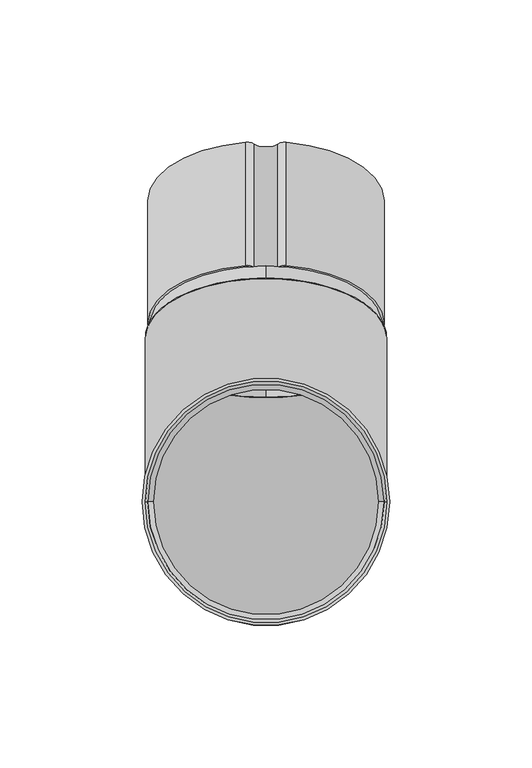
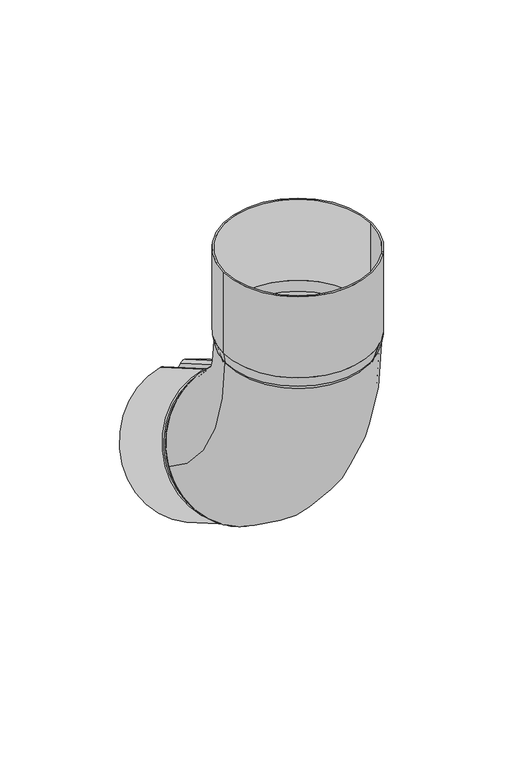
"""IFC4 building model written with IfcOpenShell, lengths in millimetres: proxy geometry, GROVIK_Downpipe_Elbow : N85_60°_Down."""

from ifc_helpers import new_model, si_unit, point, frame, frame_2d, origin, origin_with_axes, origin_2d, place, context, project, spatial, polyline, circle_curve, ellipse_curve, trimmed, segment, composite_curve, outline, extrude, source, transform, mapped, element, save
from ifc_brep_helpers import plane_surface, revolved_surface, advanced_brep


def generic_models_72abba32(model_context):
    return source(origin(), model_context, "Body", "SolidModel", [
        extrude(outline(composite_curve([segment(trimmed(circle_curve(origin_2d(), 41.5), [point((-7.1689075, -40.8761149))], [point((-7.1689075, 40.8761148))], False, "CARTESIAN"), True, "CONTINUOUS"), segment(trimmed(circle_curve(frame_2d((-6.6504209, 37.8351931)), 3.0848069), [point((-7.1689075, 40.8761148))], [point((-4.2037022, 39.7139163))], False, "CARTESIAN"), True, "CONTINUOUS"), segment(trimmed(circle_curve(frame_2d((0.0, 42.9417465)), 5.3), [point((-4.2037022, 39.7139163))], [point((4.2058428, 39.716706))], True, "CARTESIAN"), True, "CONTINUOUS"), segment(trimmed(circle_curve(frame_2d((6.6465812, 37.8451476)), 3.0757007), [point((4.2058428, 39.716706))], [point((7.2, 40.8706496))], False, "CARTESIAN"), True, "CONTINUOUS"), segment(trimmed(circle_curve(origin_2d(), 41.5), [point((7.2, 40.8706496))], [point((7.2, -40.8706497))], False, "CARTESIAN"), True, "CONTINUOUS"), segment(trimmed(circle_curve(frame_2d((6.6465812, -37.8451476)), 3.0757007), [point((7.2, -40.8706497))], [point((4.2058428, -39.716706))], False, "CARTESIAN"), True, "CONTINUOUS"), segment(trimmed(circle_curve(frame_2d((0.0, -42.9417466)), 5.3), [point((4.2058428, -39.716706))], [point((-4.2037022, -39.7139163))], True, "CARTESIAN"), True, "CONTINUOUS"), segment(trimmed(circle_curve(frame_2d((-6.6504209, -37.8351931)), 3.0848069), [point((-4.2037022, -39.7139163))], [point((-7.1689075, -40.8761149))], False, "CARTESIAN"), True, "CONTINUOUS")], self_intersect=False), holes=[composite_curve([segment(trimmed(circle_curve(frame_2d((-6.6504209, -37.8351931)), 2.0848069), [point((-6.9987091, -39.8907016))], [point((-4.9968535, -39.1048917))], True, "CARTESIAN"), True, "CONTINUOUS"), segment(trimmed(circle_curve(frame_2d((0.0, -42.9417466)), 6.3), [point((-4.9968535, -39.1048917))], [point((4.999398, -39.1082078))], False, "CARTESIAN"), True, "CONTINUOUS"), segment(trimmed(circle_curve(frame_2d((6.6465812, -37.8451476)), 2.0757007), [point((4.999398, -39.1082078))], [point((7.0229886, -39.8864342))], True, "CARTESIAN"), True, "CONTINUOUS"), segment(trimmed(circle_curve(origin_2d(), 40.5), [point((7.0229886, -39.8864342))], [point((6.9882501, 39.8925351))], True, "CARTESIAN"), True, "CONTINUOUS"), segment(trimmed(circle_curve(frame_2d((6.6465812, 37.8451476)), 2.0757007), [point((6.9882501, 39.8925351))], [point((4.999398, 39.1082078))], True, "CARTESIAN"), True, "CONTINUOUS"), segment(trimmed(circle_curve(frame_2d((0.0, 42.9417465)), 6.3), [point((4.999398, 39.1082078))], [point((-4.9968535, 39.1048917))], False, "CARTESIAN"), True, "CONTINUOUS"), segment(trimmed(circle_curve(frame_2d((-6.6504209, 37.8351931)), 2.0848069), [point((-4.9968535, 39.1048917))], [point((-6.9987091, 39.8907015))], True, "CARTESIAN"), True, "CONTINUOUS"), segment(trimmed(circle_curve(origin_2d(), 40.5), [point((-6.9987091, 39.8907015))], [point((-6.9987091, -39.8907016))], True, "CARTESIAN"), True, "CONTINUOUS")], self_intersect=False)]), frame((0.0, 105.9974226, -127.5929214), z_axis=(0.0, -0.8660254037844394, 0.4999999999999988), x_axis=(1.0, 0.0, 0.0)), (0.0, 0.0, 1.0), 50.0),
        extrude(outline(composite_curve([segment(trimmed(circle_curve(origin_2d(), 43.5), [point((-43.5, 0.0))], [point((43.5, 0.0))], False, "CARTESIAN"), True, "CONTINUOUS"), segment(trimmed(circle_curve(origin_2d(), 43.5), [point((43.5, 0.0))], [point((-43.5, 0.0))], False, "CARTESIAN"), True, "CONTINUOUS")], self_intersect=False), holes=[composite_curve([segment(trimmed(circle_curve(origin_2d(), 42.5), [point((-42.5, 0.0))], [point((42.5, 0.0))], True, "CARTESIAN"), True, "CONTINUOUS"), segment(trimmed(circle_curve(origin_2d(), 42.5), [point((42.5, 0.0))], [point((-42.5, 0.0))], True, "CARTESIAN"), True, "CONTINUOUS")], self_intersect=False)]), frame((0.0, 0.0, 6.0), z_axis=(0.0, 0.0, 1.0), x_axis=(1.0, 0.0, 0.0)), (0.0, 0.0, 1.0), 50.0),
        advanced_brep(
        [(-42.5, 0.0, 0.0), (42.5, 0.0, 0.0), (41.5, 0.0, 0.0), (-41.5, 0.0, 0.0), (-43.5, 0.0, 6.0), (43.5, 0.0, 6.0), (-42.5, 0.0, 6.0), (42.5, 0.0, 6.0)],
        [
            (0, 1, circle_curve(frame((0.0, 0.0, 0.0), z_axis=(0.0, 0.0, -1.0), x_axis=(-1.0, 0.0, 0.0)), 42.5)),
            (1, 0, circle_curve(frame((0.0, 0.0, 0.0), z_axis=(0.0, 0.0, -1.0), x_axis=(1.0, 0.0, 0.0)), 42.5)),
            (2, 3, circle_curve(frame((0.0, 0.0, 0.0), z_axis=(0.0, 0.0, 1.0), x_axis=(-1.0, 0.0, 0.0)), 41.5)),
            (3, 2, circle_curve(origin_with_axes(), 41.5)),
            (4, 5, circle_curve(frame((0.0, 0.0, 6.0), z_axis=(0.0, 0.0, 1.0), x_axis=(1.0, 0.0, 0.0)), 43.5)),
            (5, 4, circle_curve(frame((0.0, 0.0, 6.0), z_axis=(0.0, 0.0, 1.0), x_axis=(-1.0, 0.0, 0.0)), 43.5)),
            (6, 7, circle_curve(frame((0.0, 0.0, 6.0), z_axis=(0.0, 0.0, -1.0), x_axis=(-1.0, 0.0, 0.0)), 42.5)),
            (7, 6, circle_curve(frame((0.0, 0.0, 6.0), z_axis=(0.0, 0.0, -1.0), x_axis=(1.0, 0.0, 0.0)), 42.5)),
            (0, 4),
            (5, 1),
            (6, 3),
            (2, 7),
        ],
        [
            plane_surface(frame((0.0, 0.0, 0.0), z_axis=(0.0, 0.0, -1.0), x_axis=(0.0, 1.0, 0.0))),
            plane_surface(frame((0.0, 0.0, 6.0), z_axis=(0.0, 0.0, 1.0), x_axis=(0.0, 1.0, 0.0))),
            revolved_surface(polyline([(-42.5, 0.0, 0.0), (-43.5, 0.0, 6.0)]), (0.0, 0.0, -255.0), (0.0, 0.0, 1.0)),
            revolved_surface(polyline([(42.5, 0.0, 0.0), (43.5, 0.0, 6.0)]), (0.0, 0.0, -255.0), (0.0, 0.0, 1.0)),
            revolved_surface(polyline([(-42.5, 0.0, 6.0), (-41.5, 0.0, 0.0)]), (0.0, 0.0, -249.0), (0.0, 0.0, 1.0)),
        ],
        [
            (0, [[1, 2], [3, 4]]),
            (1, [[5, 6], [7, 8]]),
            (2, [[-1, 9, -6, 10]]),
            (3, [[-2, -10, -5, -9]]),
            (4, [[11, -3, 12, -7]]),
            (4, [[-11, -8, -12, -4]]),
        ],
    ),
        advanced_brep(
        [(0.0, 42.3461524, -137.8401554), (0.0, 83.0461524, -67.3456875), (0.0, 82.5461524, -68.2117129), (0.0, 42.8461524, -136.97413), (0.0, 36.25, -136.3990011), (0.0, 78.75, -62.7868418), (0.0, 36.75, -135.5329757), (0.0, 78.25, -63.6528672)],
        [
            (0, 1, circle_curve(frame((0.0, 62.6961524, -102.5929214), z_axis=(0.0, 0.8660254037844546, -0.4999999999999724), x_axis=(0.0, -0.49999999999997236, -0.8660254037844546)), 40.7)),
            (1, 0, circle_curve(frame((0.0, 62.6961524, -102.5929214), z_axis=(0.0, 0.8660254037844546, -0.4999999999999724), x_axis=(0.0, 0.49999999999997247, 0.8660254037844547)), 40.7)),
            (2, 3, circle_curve(frame((0.0, 62.6961524, -102.5929214), z_axis=(0.0, -0.8660254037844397, 0.4999999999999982), x_axis=(0.0, -0.49999999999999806, -0.8660254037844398)), 39.7)),
            (3, 2, circle_curve(frame((0.0, 62.6961524, -102.5929214), z_axis=(0.0, -0.8660254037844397, 0.4999999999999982), x_axis=(0.0, 0.49999999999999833, 0.8660254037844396)), 39.7)),
            (4, 5, circle_curve(frame((0.0, 57.5, -99.5929214), z_axis=(0.0, -0.8660254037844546, 0.4999999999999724), x_axis=(0.0, 0.49999999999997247, 0.8660254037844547)), 42.5)),
            (5, 4, circle_curve(frame((0.0, 57.5, -99.5929214), z_axis=(0.0, -0.8660254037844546, 0.4999999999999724), x_axis=(0.0, -0.49999999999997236, -0.8660254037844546)), 42.5)),
            (6, 7, circle_curve(frame((0.0, 57.5, -99.5929214), z_axis=(0.0, 0.8660254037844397, -0.4999999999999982), x_axis=(0.0, -0.49999999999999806, -0.8660254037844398)), 41.5)),
            (7, 6, circle_curve(frame((0.0, 57.5, -99.5929214), z_axis=(0.0, 0.8660254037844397, -0.4999999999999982), x_axis=(0.0, 0.49999999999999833, 0.8660254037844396)), 41.5)),
            (0, 4),
            (5, 1),
            (6, 3),
            (2, 7),
        ],
        [
            plane_surface(frame((0.0, 62.6961524, -102.5929214), z_axis=(0.0, 0.8660254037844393, -0.499999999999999), x_axis=(-1.0, 0.0, 0.0))),
            plane_surface(frame((0.0, 57.5, -99.5929214), z_axis=(0.0, -0.8660254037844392, 0.4999999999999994), x_axis=(-1.0, 0.0, 0.0))),
            revolved_surface(polyline([(0.0, 42.346152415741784, -137.8401553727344), (0.0, 36.24999998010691, -136.3990010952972)]), (0.0, 180.1869322, -170.4262548), (0.0, -0.8660254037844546, 0.4999999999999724)),
            revolved_surface(polyline([(0.0, 83.0461524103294, -67.3456875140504), (0.0, 78.74999997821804, -62.78684177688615)]), (0.0, 180.1869322, -170.4262548), (0.0, -0.8660254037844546, 0.4999999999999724)),
            revolved_surface(polyline([(0.0, 36.74999997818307, -135.5329756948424), (0.0, 42.84615241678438, -136.97412997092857)]), (0.0, 177.3001809, -168.7595881), (0.0, -0.8660254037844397, 0.4999999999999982)),
        ],
        [
            (0, [[1, 2], [3, 4]]),
            (1, [[5, 6], [7, 8]]),
            (2, [[-1, 9, -6, 10]]),
            (3, [[-2, -10, -5, -9]]),
            (4, [[11, -3, 12, -7]]),
            (4, [[-11, -8, -12, -4]]),
        ],
    ),
        advanced_brep(
        [(-40.7, 0.0, -6.0), (40.7, 0.0, -6.0), (-39.7, 0.0, -6.0), (39.7, 0.0, -6.0), (-42.5, 0.0, 0.0), (42.5, 0.0, 0.0), (41.5, 0.0, 0.0), (-41.5, 0.0, 0.0)],
        [
            (0, 1, circle_curve(frame((0.0, 0.0, -6.0), z_axis=(0.0, 0.0, -1.0), x_axis=(-1.0, 0.0, 0.0)), 40.7)),
            (1, 0, circle_curve(frame((0.0, 0.0, -6.0), z_axis=(0.0, 0.0, -1.0), x_axis=(1.0, 0.0, 0.0)), 40.7)),
            (2, 3, circle_curve(frame((0.0, 0.0, -6.0), z_axis=(0.0, 0.0, 1.0), x_axis=(1.0, 0.0, 0.0)), 39.7)),
            (3, 2, circle_curve(frame((0.0, 0.0, -6.0), z_axis=(0.0, 0.0, 1.0), x_axis=(-1.0, 0.0, 0.0)), 39.7)),
            (4, 5, circle_curve(origin_with_axes(), 42.5)),
            (5, 4, circle_curve(frame((0.0, 0.0, 0.0), z_axis=(0.0, 0.0, 1.0), x_axis=(-1.0, 0.0, 0.0)), 42.5)),
            (6, 7, circle_curve(frame((0.0, 0.0, 0.0), z_axis=(0.0, 0.0, -1.0), x_axis=(1.0, 0.0, 0.0)), 41.5)),
            (7, 6, circle_curve(frame((0.0, 0.0, 0.0), z_axis=(0.0, 0.0, -1.0), x_axis=(-1.0, 0.0, 0.0)), 41.5)),
            (1, 5),
            (4, 0),
            (6, 3),
            (2, 7),
        ],
        [
            plane_surface(frame((0.0, 0.0, -6.0), z_axis=(0.0, 0.0, -1.0), x_axis=(0.0, 1.0, 0.0))),
            plane_surface(frame((0.0, 0.0, 0.0), z_axis=(0.0, 0.0, 1.0), x_axis=(0.0, 1.0, 0.0))),
            revolved_surface(polyline([(40.70000000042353, 0.0, -6.0), (42.5, 0.0, 0.0)]), (0.0, 0.0, -141.6666667), (0.0, 0.0, 1.0)),
            revolved_surface(polyline([(-40.70000000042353, 0.0, -6.0), (-42.5, 0.0, 0.0)]), (0.0, 0.0, -141.6666667), (0.0, 0.0, 1.0)),
            revolved_surface(polyline([(41.5, 0.0, 0.0), (39.699999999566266, 0.0, -6.0)]), (0.0, 0.0, -138.3333333), (0.0, 0.0, 1.0)),
        ],
        [
            (0, [[1, 2], [3, 4]]),
            (1, [[5, 6], [7, 8]]),
            (2, [[-2, 9, -5, 10]]),
            (3, [[-1, -10, -6, -9]]),
            (4, [[11, -3, 12, -7]]),
            (4, [[-11, -8, -12, -4]]),
        ],
    ),
        advanced_brep(
        [(-42.5, 0.0, 0.0), (42.5, 0.0, 0.0), (-41.5, 0.0, 0.0), (41.5, 0.0, 0.0), (-42.5, 57.5, -99.5929214), (42.5, 57.5, -99.5929214), (-41.5, 57.5, -99.5929214), (41.5, 57.5, -99.5929214)],
        [
            (0, 1, circle_curve(origin_with_axes(), 42.5)),
            (1, 0, circle_curve(origin_with_axes(), 42.5)),
            (2, 3, circle_curve(frame((0.0, 0.0, 0.0), z_axis=(0.0, 0.0, -1.0), x_axis=(1.0, 0.0, 0.0)), 41.5)),
            (3, 2, circle_curve(frame((0.0, 0.0, 0.0), z_axis=(0.0, 0.0, -1.0), x_axis=(1.0, 0.0, 0.0)), 41.5)),
            (4, 5, circle_curve(frame((0.0, 57.5, -99.5929214), z_axis=(0.0, 0.8660254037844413, -0.4999999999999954), x_axis=(1.0, 0.0, 0.0)), 42.5)),
            (5, 4, circle_curve(frame((0.0, 57.5, -99.5929214), z_axis=(0.0, 0.8660254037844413, -0.4999999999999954), x_axis=(1.0, 0.0, 0.0)), 42.5)),
            (6, 7, circle_curve(frame((0.0, 57.5, -99.5929214), z_axis=(0.0, -0.8660254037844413, 0.4999999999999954), x_axis=(1.0, 0.0, 0.0)), 41.5)),
            (7, 6, circle_curve(frame((0.0, 57.5, -99.5929214), z_axis=(0.0, -0.8660254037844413, 0.4999999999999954), x_axis=(1.0, 0.0, 0.0)), 41.5)),
            (7, 3, circle_curve(frame((41.5, 115.0, 0.0), z_axis=(-1.0, 0.0, 0.0), x_axis=(0.0, -1.0, 0.0)), 115.0)),
            (2, 6, circle_curve(frame((-41.5, 115.0, 0.0), z_axis=(1.0, 0.0, 0.0), x_axis=(0.0, -1.0, 0.0)), 115.0)),
            (5, 1, circle_curve(frame((42.5, 115.0, 0.0), z_axis=(-1.0, 0.0, 0.0), x_axis=(0.0, -1.0, 0.0)), 115.0)),
            (0, 4, circle_curve(frame((-42.5, 115.0, 0.0), z_axis=(1.0, 0.0, 0.0), x_axis=(0.0, -1.0, 0.0)), 115.0)),
        ],
        [
            plane_surface(origin_with_axes()),
            plane_surface(frame((0.0, 57.5, -99.5929214), z_axis=(0.0, 0.8660254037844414, -0.4999999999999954), x_axis=(1.0, 0.0, 0.0))),
            revolved_surface(trimmed(ellipse_curve(frame((0.0, 0.0, 0.0), z_axis=(0.0, 0.0, -1.0), x_axis=(1.0, 0.0, 0.0)), 41.5, 41.5), [point((-41.5, 0.0, 0.0))], [point((41.5, 0.0, 0.0))], True, "CARTESIAN"), (0.0, 115.0, 0.0), (1.0, 0.0, 0.0)),
            revolved_surface(trimmed(ellipse_curve(frame((0.0, 0.0, 0.0), z_axis=(0.0, 0.0, -1.0), x_axis=(1.0, 0.0, 0.0)), 41.5, 41.5), [point((41.5, 0.0, 0.0))], [point((-41.5, 0.0, 0.0))], True, "CARTESIAN"), (0.0, 115.0, 0.0), (1.0, 0.0, 0.0)),
            revolved_surface(trimmed(ellipse_curve(origin_with_axes(), 42.5, 42.5), [point((-42.5, 0.0, 0.0))], [point((42.5, 0.0, 0.0))], True, "CARTESIAN"), (0.0, 115.0, 0.0), (1.0, 0.0, 0.0)),
            revolved_surface(trimmed(ellipse_curve(origin_with_axes(), 42.5, 42.5), [point((42.5, 0.0, 0.0))], [point((-42.5, 0.0, 0.0))], True, "CARTESIAN"), (0.0, 115.0, 0.0), (1.0, 0.0, 0.0)),
        ],
        [
            (0, [[1, 2], [3, 4]]),
            (1, [[5, 6], [7, 8]]),
            (2, [[9, -3, 10, -8]]),
            (3, [[-10, -4, -9, -7]]),
            (4, [[11, -1, 12, -6]]),
            (5, [[-12, -2, -11, -5]]),
        ],
    ),
    ])


if __name__ == "__main__":
    model = new_model("IFC4")
    model_context = context("Model", 3, world=origin())
    ifc_project = project(units=[si_unit("LENGTHUNIT", "METRE", prefix="MILLI")], contexts=[model_context])
    site = spatial("IfcSite", under=ifc_project)
    building = spatial("IfcBuilding", under=site)
    placement = place(None, origin())
    generic_models_shape = generic_models_72abba32(model_context)
    element("IfcBuildingElementProxy", 1, Name="GROVIK_Downpipe_Elbow : N85_60°_Down", ObjectType="GROVIK_Downpipe_Elbow : N85_60°_Down", at=placement, inside=building, context=model_context, shape_type="MappedRepresentation", body=[
        mapped(generic_models_shape, transform((0.0, 0.0, 0.0), x_axis=(1.0, 0.0, 0.0), y_axis=(0.0, 1.0, 0.0), z_axis=(0.0, 0.0, 1.0))),
    ])
    save(model, "model.ifc")
